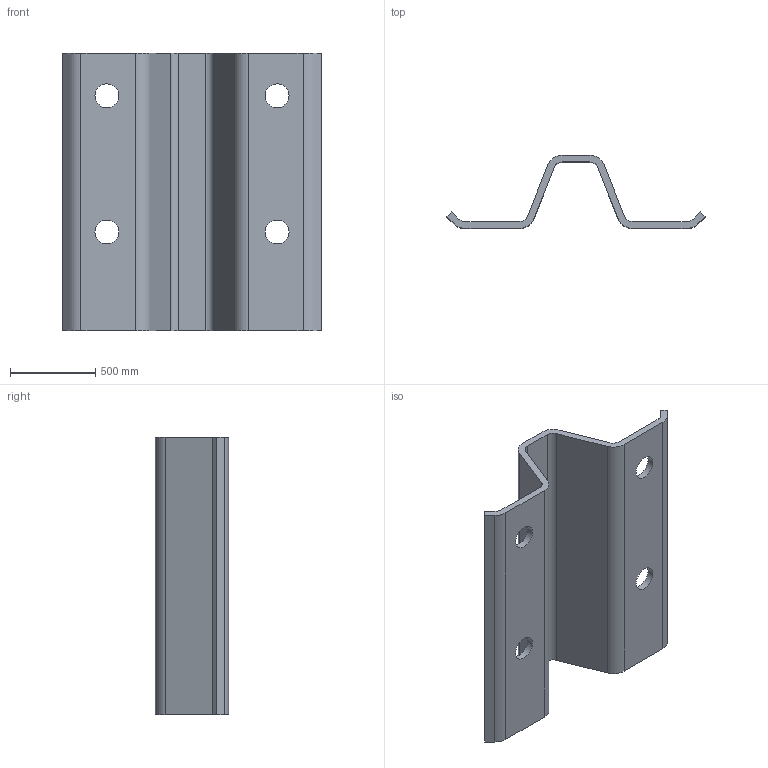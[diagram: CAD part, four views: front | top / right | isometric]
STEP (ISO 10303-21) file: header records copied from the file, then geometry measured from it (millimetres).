
FILE_DESCRIPTION(/* description */ (''),/* implementation_level */ '2;1');
FILE_NAME(/* name */ 'ZC185.stp',/* time_stamp */ '2024-10-31T15:16:48+01:00',/* author */ ('woriedl'),/* organization */ (''),/* preprocessor_version */ 'ST-DEVELOPER v20',/* originating_system */ 'AutoCAD Mechanical',/* authorisation */ '');
FILE_SCHEMA (('AUTOMOTIVE_DESIGN { 1 0 10303 214 3 1 1 }'));
Length unit declared in the file: centimetre
Products named in the file (1): Product
Bounding box: 1517.2 x 430 x 1630 mm (x, y, z)
Volume: 129126366.2 mm3; surface area: 6818549.3 mm2
Topology: 1 solids, 1 shells, 34 faces, 96 edges, 64 vertices
Faces by surface type: plane 18, cylinder 16
Full cylindrical faces by diameter (mm): 140 x4
Entity records: 1151 total; most frequent: DIRECTION 198, CARTESIAN_POINT 195, ORIENTED_EDGE 192, EDGE_CURVE 96, AXIS2_PLACEMENT_3D 67, LINE 64, VECTOR 64, VERTEX_POINT 64
